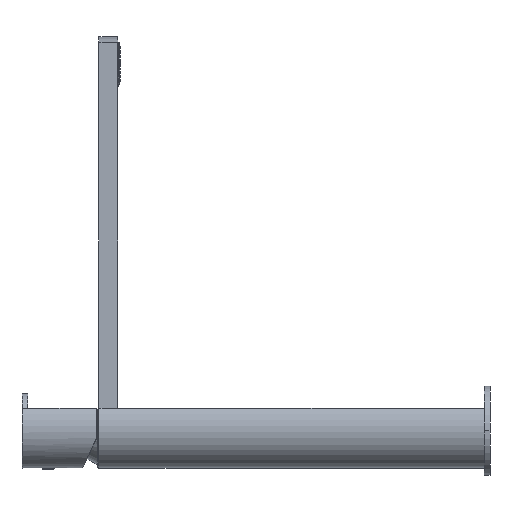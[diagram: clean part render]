
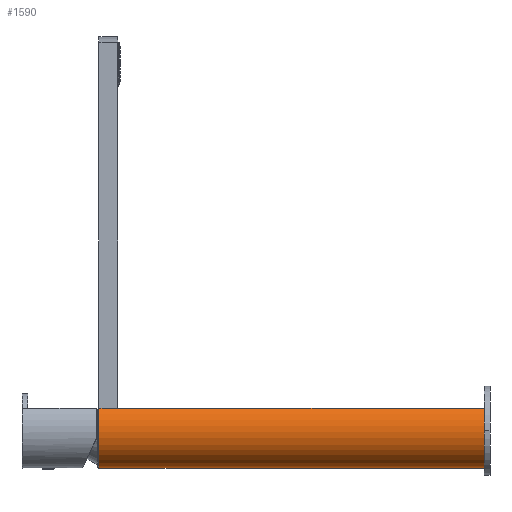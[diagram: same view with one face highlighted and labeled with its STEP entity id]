
A CAD part, left-side view. The second image highlights one B-rep face of the part: STEP entity #1590.
In plain terms, the highlighted cylindrical face has radius 20 mm (diameter 40 mm), a partial arc.
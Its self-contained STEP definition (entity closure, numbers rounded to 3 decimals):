
#35=CARTESIAN_POINT('',(0.,-160.,0.));
#36=DIRECTION('',(0.,1.,0.));
#37=DIRECTION('',(0.8,0.,0.6));
#38=AXIS2_PLACEMENT_3D('',#35,#36,#37);
#40=DIRECTION('',(0.,1.,0.));
#41=VECTOR('',#40,10.);
#42=CARTESIAN_POINT('',(16.,37.,12.));
#43=LINE('',#42,#41);
#44=CARTESIAN_POINT('',(0.,47.,0.));
#45=DIRECTION('',(0.,1.,0.));
#46=DIRECTION('',(0.8,0.,0.6));
#47=AXIS2_PLACEMENT_3D('',#44,#45,#46);
#49=DIRECTION('',(0.,1.,0.));
#50=VECTOR('',#49,10.);
#51=CARTESIAN_POINT('',(-16.,37.,12.));
#52=LINE('',#51,#50);
#85=DIRECTION('',(0.,1.,0.));
#86=VECTOR('',#85,197.);
#87=CARTESIAN_POINT('',(-16.,-160.,12.));
#88=LINE('',#87,#86);
#93=DIRECTION('',(0.,-1.,0.));
#94=VECTOR('',#93,197.);
#95=CARTESIAN_POINT('',(16.,37.,12.));
#96=LINE('',#95,#94);
#1293=CARTESIAN_POINT('',(16.,37.,12.));
#1294=CARTESIAN_POINT('',(16.,47.,12.));
#1295=VERTEX_POINT('',#1293);
#1296=VERTEX_POINT('',#1294);
#1297=CARTESIAN_POINT('',(-16.,37.,12.));
#1298=CARTESIAN_POINT('',(-16.,47.,12.));
#1299=VERTEX_POINT('',#1297);
#1300=VERTEX_POINT('',#1298);
#1386=CARTESIAN_POINT('',(16.,-160.,12.));
#1387=CARTESIAN_POINT('',(-16.,-160.,12.));
#1388=VERTEX_POINT('',#1386);
#1389=VERTEX_POINT('',#1387);
#1574=CARTESIAN_POINT('',(0.,0.,0.));
#1575=DIRECTION('',(0.,1.,0.));
#1576=DIRECTION('',(1.,0.,0.));
#1577=AXIS2_PLACEMENT_3D('',#1574,#1575,#1576);
#1578=CYLINDRICAL_SURFACE('',#1577,20.);
#1580=ORIENTED_EDGE('',*,*,#1579,.F.);
#1582=ORIENTED_EDGE('',*,*,#1581,.F.);
#1583=ORIENTED_EDGE('',*,*,#1516,.T.);
#1584=ORIENTED_EDGE('',*,*,#1495,.T.);
#1585=ORIENTED_EDGE('',*,*,#1557,.F.);
#1587=ORIENTED_EDGE('',*,*,#1586,.F.);
#1588=EDGE_LOOP('',(#1580,#1582,#1583,#1584,#1585,#1587));
#1589=FACE_OUTER_BOUND('',#1588,.F.);
#1590=ADVANCED_FACE('',(#1589),#1578,.T.);
#39=CIRCLE('',#38,20.);
#48=CIRCLE('',#47,20.);
#1495=EDGE_CURVE('',#1296,#1300,#48,.T.);
#1516=EDGE_CURVE('',#1295,#1296,#43,.T.);
#1557=EDGE_CURVE('',#1299,#1300,#52,.T.);
#1579=EDGE_CURVE('',#1388,#1389,#39,.T.);
#1581=EDGE_CURVE('',#1295,#1388,#96,.T.);
#1586=EDGE_CURVE('',#1389,#1299,#88,.T.);
